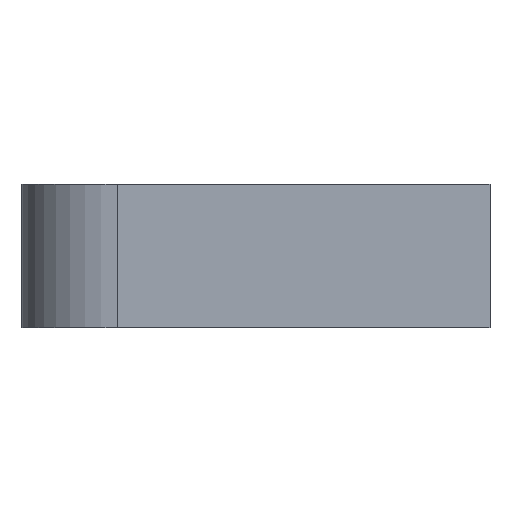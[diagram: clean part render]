
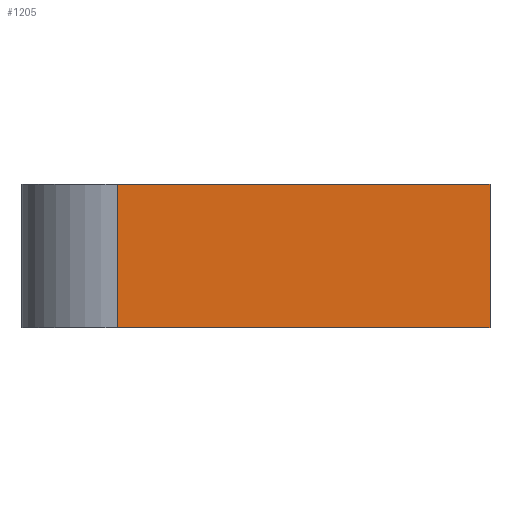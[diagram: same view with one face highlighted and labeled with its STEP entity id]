
A CAD part, left-side view. The second image highlights one B-rep face of the part: STEP entity #1205.
In plain terms, the highlighted planar face has unit normal (-1, 0, 0).
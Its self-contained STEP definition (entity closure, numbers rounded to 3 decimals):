
#1140=CARTESIAN_POINT('',(-18.0,20.7,-8.0));
#1141=VERTEX_POINT('',#1140);
#1149=CARTESIAN_POINT('',(-18.0,20.7,0.0));
#1150=VERTEX_POINT('',#1149);
#1151=CARTESIAN_POINT('',(-18.0,20.7,0.0));
#1152=DIRECTION('',(0.0,0.0,-1.0));
#1153=VECTOR('',#1152,8.0);
#1154=LINE('',#1151,#1153);
#1155=EDGE_CURVE('',#1150,#1141,#1154,.T.);
#1175=CARTESIAN_POINT('',(-18.0,20.7,0.0));
#1176=DIRECTION('',(-1.0,0.0,0.0));
#1177=DIRECTION('',(0.0,0.0,1.0));
#1178=AXIS2_PLACEMENT_3D('',#1175,#1176,#1177);
#1179=PLANE('',#1178);
#1180=CARTESIAN_POINT('',(-18.0,0.,0.0));
#1181=VERTEX_POINT('',#1180);
#1182=CARTESIAN_POINT('',(-18.0,20.7,0.0));
#1183=DIRECTION('',(0.0,-1.0,0.0));
#1184=VECTOR('',#1183,20.7);
#1185=LINE('',#1182,#1184);
#1186=EDGE_CURVE('',#1150,#1181,#1185,.T.);
#1187=ORIENTED_EDGE('',*,*,#1186,.F.);
#1188=ORIENTED_EDGE('',*,*,#1155,.T.);
#1189=CARTESIAN_POINT('',(-18.0,0.,-8.0));
#1190=VERTEX_POINT('',#1189);
#1191=CARTESIAN_POINT('',(-18.0,20.7,-8.0));
#1192=DIRECTION('',(0.0,-1.0,0.0));
#1193=VECTOR('',#1192,20.7);
#1194=LINE('',#1191,#1193);
#1195=EDGE_CURVE('',#1141,#1190,#1194,.T.);
#1196=ORIENTED_EDGE('',*,*,#1195,.T.);
#1197=CARTESIAN_POINT('',(-18.0,0.,0.0));
#1198=DIRECTION('',(0.0,0.0,-1.0));
#1199=VECTOR('',#1198,8.0);
#1200=LINE('',#1197,#1199);
#1201=EDGE_CURVE('',#1181,#1190,#1200,.T.);
#1202=ORIENTED_EDGE('',*,*,#1201,.F.);
#1203=EDGE_LOOP('',(#1187,#1188,#1196,#1202));
#1204=FACE_OUTER_BOUND('',#1203,.T.);
#1205=ADVANCED_FACE('',(#1204),#1179,.T.);
